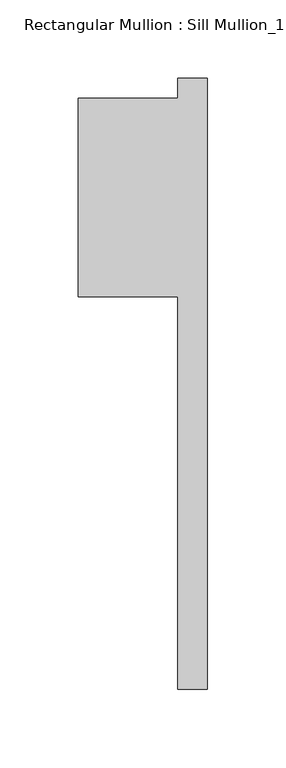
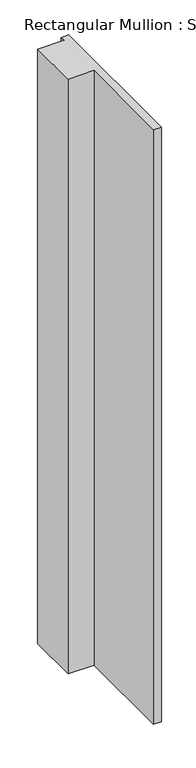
"""IFC4 building model written with IfcOpenShell, lengths in millimetres: member geometry."""

from ifc_helpers import new_model, si_unit, frame, origin, place, context, project, spatial, polyline, outline, extrude, source, transform, mapped, element, save


def member_ea21017b(model_context):
    return source(origin(), model_context, "Body", "SweptSolid", [
        extrude(outline(polyline([(-82.55, -50.8), (-82.55, 76.2), (-19.05, 76.2), (-19.05, 88.9), (0.0, 88.9), (0.0, -301.625), (-19.05, -301.625), (-19.05, -50.8), (-82.55, -50.8)])), frame((0.0, 0.0, -1529.08), z_axis=(0.0, 0.0, 1.0), x_axis=(1.0, 0.0, 0.0)), (0.0, 0.0, 1.0), 1529.08),
    ])


if __name__ == "__main__":
    model = new_model("IFC4")
    model_context = context("Model", 3, world=origin())
    ifc_project = project(units=[si_unit("LENGTHUNIT", "METRE", prefix="MILLI")], contexts=[model_context])
    site = spatial("IfcSite", under=ifc_project)
    building = spatial("IfcBuilding", under=site)
    placement = place(None, origin())
    member_shape = member_ea21017b(model_context)
    element("IfcMember", 1, ObjectType="Rectangular Mullion : Sill Mullion_15\" thick wall", at=placement, inside=building, context=model_context, shape_type="MappedRepresentation", body=[
        mapped(member_shape, transform((0.0, 0.0, 0.0), x_axis=(1.0, 0.0, 0.0), y_axis=(0.0, 1.0, 0.0), z_axis=(0.0, 0.0, 1.0))),
    ])
    save(model, "model.ifc")
